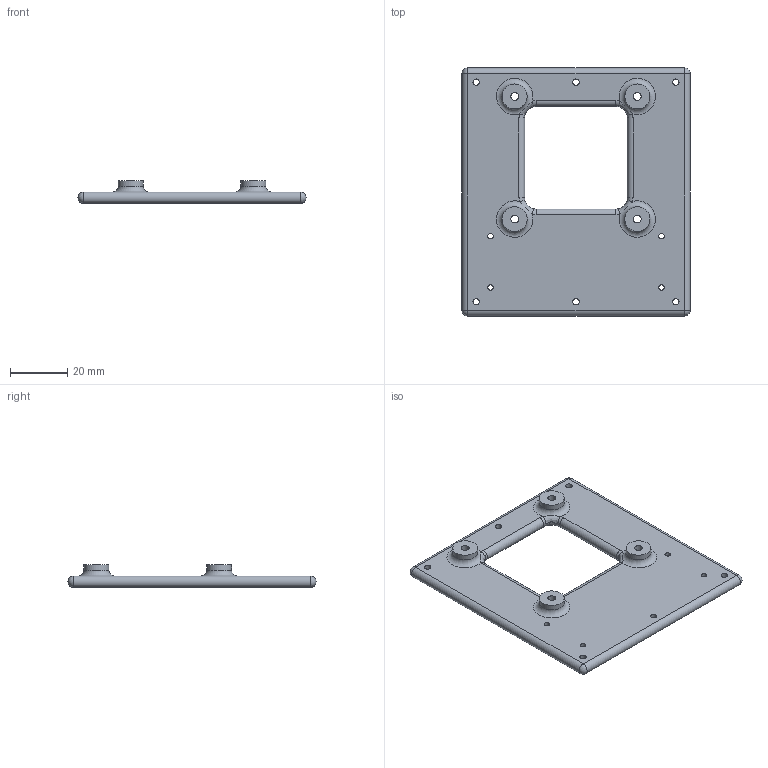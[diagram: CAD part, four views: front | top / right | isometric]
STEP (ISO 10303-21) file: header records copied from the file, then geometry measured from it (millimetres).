
FILE_DESCRIPTION(/* description */ (''),/* implementation_level */ '2;1');
FILE_NAME(/* name */ 'slam sensor plate v1.step',/* time_stamp */ '2025-07-16T17:49:42+08:00',/* author */ (''),/* organization */ (''),/* preprocessor_version */ 'ST-DEVELOPER v20.1',/* originating_system */ 'Autodesk Translation Framework v14.10.0.0',/* authorisation */ '');
FILE_SCHEMA (('AUTOMOTIVE_DESIGN { 1 0 10303 214 3 1 1 }'));
Length unit declared in the file: millimetre
Products named in the file (1): slam sensor plate
Bounding box: 80 x 87 x 8 mm (x, y, z)
Volume: 22349.8 mm3; surface area: 13348.4 mm2
Topology: 1 solids, 1 shells, 60 faces, 150 edges, 94 vertices
Faces by surface type: cylinder 34, plane 10, torus 8, sphere 4, bspline 4
Full cylindrical faces by diameter (mm): 1.95 x4, 2.25 x6, 2.75 x4, 4.75 x4, 8.75 x4
Entity records: 2148 total; most frequent: CARTESIAN_POINT 564, DIRECTION 356, ORIENTED_EDGE 296, AXIS2_PLACEMENT_3D 159, EDGE_CURVE 148, CIRCLE 102, EDGE_LOOP 94, VERTEX_POINT 94
